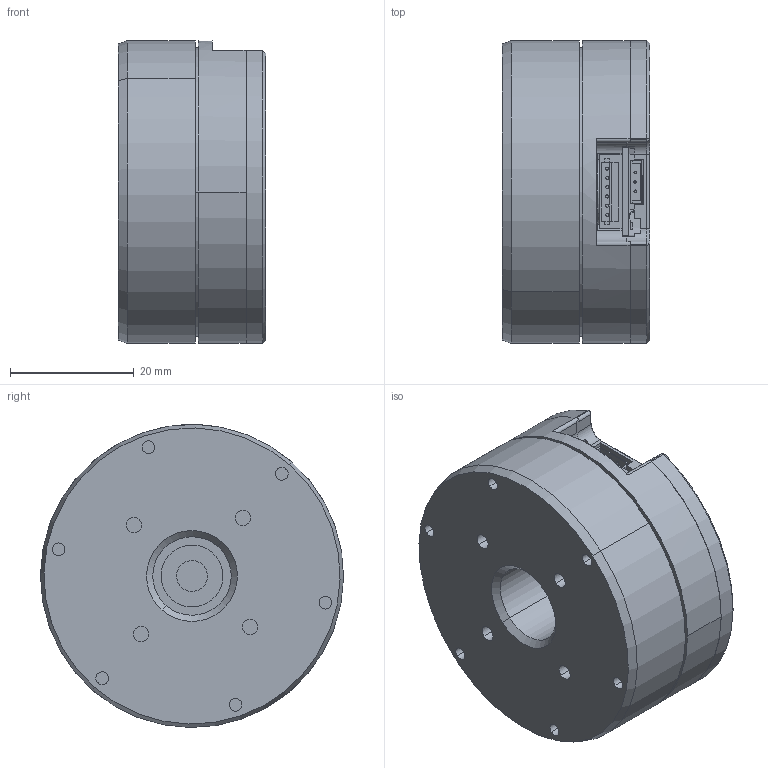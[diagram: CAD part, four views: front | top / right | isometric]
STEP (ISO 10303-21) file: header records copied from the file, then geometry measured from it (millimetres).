
FILE_DESCRIPTION (( 'STEP AP214' ), '1' );
FILE_NAME ('MS5005v2.STEP', '2022-08-29T03:28:46', ( '' ), ( '' ), 'SwSTEP 2.0', 'SolidWorks 2018', '' );
FILE_SCHEMA (( 'AUTOMOTIVE_DESIGN' ));
Length unit declared in the file: millimetre
Products named in the file (2): MS5005v2
Bounding box: 23.9 x 49 x 49 mm (x, y, z)
Surface area: 21151.1 mm2 (no closed solid volume)
Topology: 0 solids, 61 shells, 1226 faces, 3077 edges, 2012 vertices
Faces by surface type: plane 627, cylinder 368, bspline 161, cone 62, torus 6, sphere 2
Entity records: 54498 total; most frequent: CARTESIAN_POINT 11882, ORIENTED_EDGE 6074, DIRECTION 5564, EDGE_CURVE 3057, VERTEX_POINT 2012, AXIS2_PLACEMENT_3D 1894, VECTOR 1776, LINE 1776
